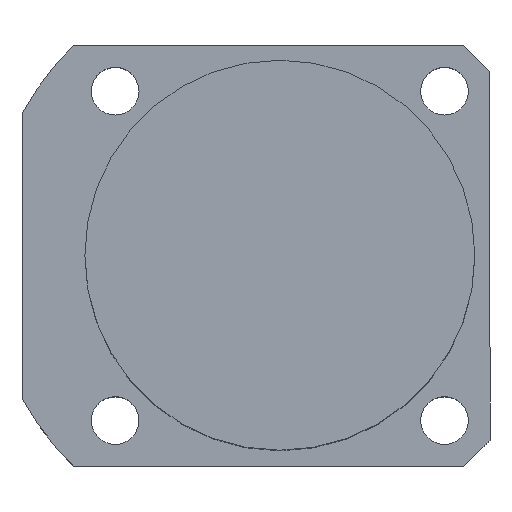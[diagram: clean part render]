
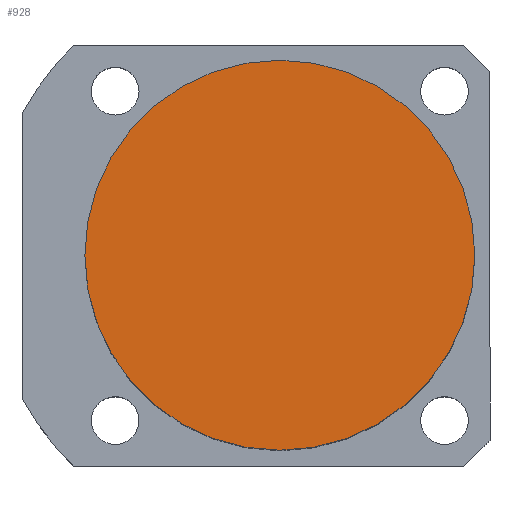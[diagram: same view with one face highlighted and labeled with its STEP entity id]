
A CAD part, top view. The second image highlights one B-rep face of the part: STEP entity #928.
In plain terms, the highlighted planar face has unit normal (0, 0, 1).
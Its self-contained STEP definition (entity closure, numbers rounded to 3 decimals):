
#205 = ORIENTED_EDGE ( 'NONE', *, *, #1429, .T. ) ;
#219 = DIRECTION ( 'NONE',  ( 1., 0., 0. ) ) ;
#290 = CIRCLE ( 'NONE', #1295, 45. ) ;
#309 = FACE_OUTER_BOUND ( 'NONE', #597, .T. ) ;
#597 = EDGE_LOOP ( 'NONE', ( #1533, #205 ) ) ;
#606 = CARTESIAN_POINT ( 'NONE',  ( -45., 0., 99.5 ) ) ;
#626 = EDGE_CURVE ( 'NONE', #1250, #1084, #290, .T. ) ;
#695 = PLANE ( 'NONE',  #771 ) ;
#771 = AXIS2_PLACEMENT_3D ( 'NONE', #1749, #1890, #1444 ) ;
#833 = CARTESIAN_POINT ( 'NONE',  ( 0., 0., 99.5 ) ) ;
#888 = DIRECTION ( 'NONE',  ( 0., 0., 1. ) ) ;
#928 = ADVANCED_FACE ( 'NONE', ( #309 ), #695, .T. ) ;
#1020 = DIRECTION ( 'NONE',  ( 1., 0., 0. ) ) ;
#1084 = VERTEX_POINT ( 'NONE', #1176 ) ;
#1176 = CARTESIAN_POINT ( 'NONE',  ( 45., 0., 99.5 ) ) ;
#1199 = CARTESIAN_POINT ( 'NONE',  ( 0., 0., 99.5 ) ) ;
#1250 = VERTEX_POINT ( 'NONE', #606 ) ;
#1295 = AXIS2_PLACEMENT_3D ( 'NONE', #1199, #888, #1020 ) ;
#1429 = EDGE_CURVE ( 'NONE', #1084, #1250, #1473, .T. ) ;
#1444 = DIRECTION ( 'NONE',  ( 1., 0., 0. ) ) ;
#1473 = CIRCLE ( 'NONE', #1775, 45. ) ;
#1533 = ORIENTED_EDGE ( 'NONE', *, *, #626, .T. ) ;
#1592 = DIRECTION ( 'NONE',  ( 0., 0., 1. ) ) ;
#1749 = CARTESIAN_POINT ( 'NONE',  ( 0., 0., 99.5 ) ) ;
#1775 = AXIS2_PLACEMENT_3D ( 'NONE', #833, #1592, #219 ) ;
#1890 = DIRECTION ( 'NONE',  ( 0., 0., 1. ) ) ;
